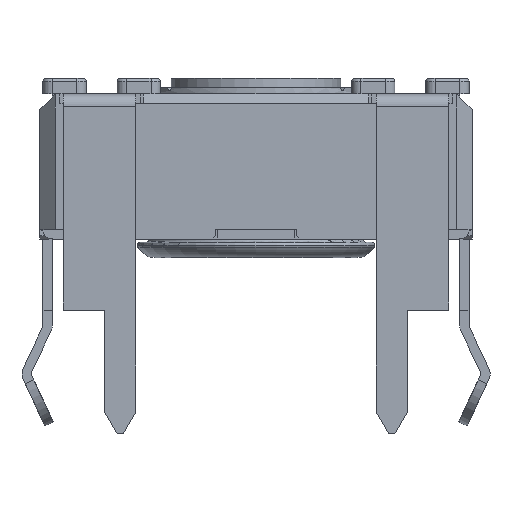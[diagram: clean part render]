
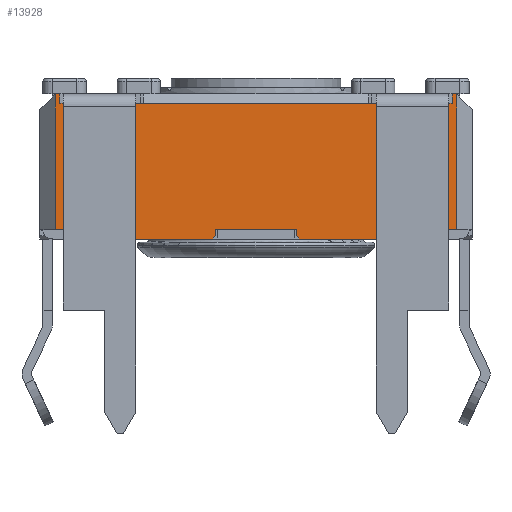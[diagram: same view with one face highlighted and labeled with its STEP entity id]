
A CAD part, front view. The second image highlights one B-rep face of the part: STEP entity #13928.
In plain terms, the highlighted planar face has unit normal (0, -1, 0).
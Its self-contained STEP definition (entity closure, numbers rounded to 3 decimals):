
#443=PLANE('',#14892);
#1091=FACE_OUTER_BOUND('',#1827,.T.);
#1827=EDGE_LOOP('',(#11359,#11360,#11361,#11362,#11363,#11364,#11365,#11366,
#11367,#11368,#11369,#11370,#11371,#11372,#11373,#11374,#11375,#11376,#11377,
#11378,#11379,#11380,#11381,#11382,#11383));
#2490=LINE('',#20045,#4082);
#2493=LINE('',#20053,#4085);
#2519=LINE('',#20104,#4111);
#2520=LINE('',#20106,#4112);
#2523=LINE('',#20114,#4115);
#2549=LINE('',#20165,#4141);
#2741=LINE('',#20729,#4333);
#2754=LINE('',#20753,#4346);
#2903=LINE('',#21208,#4495);
#3067=LINE('',#21650,#4659);
#3072=LINE('',#21660,#4664);
#3077=LINE('',#21670,#4669);
#3092=LINE('',#21696,#4684);
#3177=LINE('',#21969,#4769);
#3185=LINE('',#21987,#4777);
#3191=LINE('',#21995,#4783);
#3192=LINE('',#21998,#4784);
#3193=LINE('',#22000,#4785);
#3194=LINE('',#22002,#4786);
#3195=LINE('',#22003,#4787);
#3196=LINE('',#22004,#4788);
#3197=LINE('',#22005,#4789);
#3198=LINE('',#22006,#4790);
#3199=LINE('',#22007,#4791);
#3200=LINE('',#22008,#4792);
#4082=VECTOR('',#16075,10.);
#4085=VECTOR('',#16086,10.);
#4111=VECTOR('',#16114,10.);
#4112=VECTOR('',#16117,10.);
#4115=VECTOR('',#16128,10.);
#4141=VECTOR('',#16156,10.);
#4333=VECTOR('',#16726,10.);
#4346=VECTOR('',#16753,10.);
#4495=VECTOR('',#17140,10.);
#4659=VECTOR('',#17436,10.);
#4664=VECTOR('',#17441,10.);
#4669=VECTOR('',#17446,10.);
#4684=VECTOR('',#17463,10.);
#4769=VECTOR('',#17682,10.);
#4777=VECTOR('',#17694,10.);
#4783=VECTOR('',#17704,10.);
#4784=VECTOR('',#17707,10.);
#4785=VECTOR('',#17708,10.);
#4786=VECTOR('',#17709,10.);
#4787=VECTOR('',#17710,10.);
#4788=VECTOR('',#17711,10.);
#4789=VECTOR('',#17712,10.);
#4790=VECTOR('',#17713,10.);
#4791=VECTOR('',#17714,10.);
#4792=VECTOR('',#17715,10.);
#5727=VERTEX_POINT('',#19302);
#5737=VERTEX_POINT('',#19324);
#5745=VERTEX_POINT('',#19345);
#5784=VERTEX_POINT('',#19442);
#6002=VERTEX_POINT('',#20052);
#6026=VERTEX_POINT('',#20102);
#6027=VERTEX_POINT('',#20113);
#6051=VERTEX_POINT('',#20163);
#6233=VERTEX_POINT('',#20726);
#6234=VERTEX_POINT('',#20728);
#6237=VERTEX_POINT('',#20750);
#6238=VERTEX_POINT('',#20752);
#6364=VERTEX_POINT('',#21204);
#6481=VERTEX_POINT('',#21649);
#6485=VERTEX_POINT('',#21657);
#6486=VERTEX_POINT('',#21659);
#6490=VERTEX_POINT('',#21667);
#6491=VERTEX_POINT('',#21669);
#6553=VERTEX_POINT('',#21967);
#6554=VERTEX_POINT('',#21968);
#6561=VERTEX_POINT('',#21985);
#6562=VERTEX_POINT('',#21986);
#6563=VERTEX_POINT('',#21997);
#6564=VERTEX_POINT('',#21999);
#6565=VERTEX_POINT('',#22001);
#7418=EDGE_CURVE('',#5784,#5745,#2490,.T.);
#7421=EDGE_CURVE('',#6002,#5784,#2493,.T.);
#7447=EDGE_CURVE('',#5745,#6026,#2519,.T.);
#7448=EDGE_CURVE('',#5727,#5737,#2520,.T.);
#7451=EDGE_CURVE('',#6027,#5727,#2523,.T.);
#7477=EDGE_CURVE('',#5737,#6051,#2549,.T.);
#7760=EDGE_CURVE('',#6234,#6233,#2741,.T.);
#7773=EDGE_CURVE('',#6238,#6237,#2754,.T.);
#7971=EDGE_CURVE('',#6238,#6364,#2903,.T.);
#8156=EDGE_CURVE('',#6481,#6364,#3067,.T.);
#8161=EDGE_CURVE('',#6486,#6485,#3072,.T.);
#8166=EDGE_CURVE('',#6491,#6490,#3077,.T.);
#8181=EDGE_CURVE('',#6491,#6233,#3092,.T.);
#8285=EDGE_CURVE('',#6553,#6554,#3177,.T.);
#8293=EDGE_CURVE('',#6561,#6562,#3185,.T.);
#8299=EDGE_CURVE('',#6486,#6553,#3191,.T.);
#8300=EDGE_CURVE('',#6485,#6563,#3192,.T.);
#8301=EDGE_CURVE('',#6564,#6563,#3193,.T.);
#8302=EDGE_CURVE('',#6564,#6565,#3194,.T.);
#8303=EDGE_CURVE('',#6565,#6481,#3195,.T.);
#8304=EDGE_CURVE('',#6237,#6027,#3196,.T.);
#8305=EDGE_CURVE('',#6002,#6051,#3197,.T.);
#8306=EDGE_CURVE('',#6026,#6234,#3198,.T.);
#8307=EDGE_CURVE('',#6490,#6562,#3199,.T.);
#8308=EDGE_CURVE('',#6561,#6554,#3200,.T.);
#11359=ORIENTED_EDGE('',*,*,#8285,.F.);
#11360=ORIENTED_EDGE('',*,*,#8299,.F.);
#11361=ORIENTED_EDGE('',*,*,#8161,.T.);
#11362=ORIENTED_EDGE('',*,*,#8300,.T.);
#11363=ORIENTED_EDGE('',*,*,#8301,.F.);
#11364=ORIENTED_EDGE('',*,*,#8302,.T.);
#11365=ORIENTED_EDGE('',*,*,#8303,.T.);
#11366=ORIENTED_EDGE('',*,*,#8156,.T.);
#11367=ORIENTED_EDGE('',*,*,#7971,.F.);
#11368=ORIENTED_EDGE('',*,*,#7773,.T.);
#11369=ORIENTED_EDGE('',*,*,#8304,.T.);
#11370=ORIENTED_EDGE('',*,*,#7451,.T.);
#11371=ORIENTED_EDGE('',*,*,#7448,.T.);
#11372=ORIENTED_EDGE('',*,*,#7477,.T.);
#11373=ORIENTED_EDGE('',*,*,#8305,.F.);
#11374=ORIENTED_EDGE('',*,*,#7421,.T.);
#11375=ORIENTED_EDGE('',*,*,#7418,.T.);
#11376=ORIENTED_EDGE('',*,*,#7447,.T.);
#11377=ORIENTED_EDGE('',*,*,#8306,.T.);
#11378=ORIENTED_EDGE('',*,*,#7760,.T.);
#11379=ORIENTED_EDGE('',*,*,#8181,.F.);
#11380=ORIENTED_EDGE('',*,*,#8166,.T.);
#11381=ORIENTED_EDGE('',*,*,#8307,.T.);
#11382=ORIENTED_EDGE('',*,*,#8293,.F.);
#11383=ORIENTED_EDGE('',*,*,#8308,.T.);
#13928=ADVANCED_FACE('',(#1091),#443,.T.);
#14892=AXIS2_PLACEMENT_3D('',#21996,#17705,#17706);
#16075=DIRECTION('',(-1.,0.,0.));
#16086=DIRECTION('',(-1.,0.,0.));
#16114=DIRECTION('',(-1.,0.,0.));
#16117=DIRECTION('',(-1.,0.,0.));
#16128=DIRECTION('',(-1.,0.,0.));
#16156=DIRECTION('',(-1.,0.,0.));
#16726=DIRECTION('',(-1.,0.,0.));
#16753=DIRECTION('',(-1.,0.,0.));
#17140=DIRECTION('',(0.,0.,-1.));
#17436=DIRECTION('',(1.,0.,0.));
#17441=DIRECTION('',(1.,0.,0.));
#17446=DIRECTION('',(1.,0.,0.));
#17463=DIRECTION('',(0.,0.,1.));
#17682=DIRECTION('',(-0.707,0.,-0.707));
#17694=DIRECTION('',(-0.707,0.,0.707));
#17704=DIRECTION('',(0.,0.,-1.));
#17705=DIRECTION('center_axis',(0.,-1.,0.));
#17706=DIRECTION('ref_axis',(0.,0.,-1.));
#17707=DIRECTION('',(0.,0.,-1.));
#17708=DIRECTION('',(-0.707,0.,0.707));
#17709=DIRECTION('',(1.,0.,0.));
#17710=DIRECTION('',(0.,0.,1.));
#17711=DIRECTION('',(0.,0.,-1.));
#17712=DIRECTION('',(1.,0.,0.));
#17713=DIRECTION('',(0.,0.,1.));
#17714=DIRECTION('',(0.,0.,-1.));
#17715=DIRECTION('',(1.,0.,0.));
#19302=CARTESIAN_POINT('',(-1.217,-9.898,4.1));
#19324=CARTESIAN_POINT('',(-3.567,-9.898,4.1));
#19345=CARTESIAN_POINT('',(-13.717,-9.898,4.1));
#19442=CARTESIAN_POINT('',(-11.367,-9.898,4.1));
#20045=CARTESIAN_POINT('',(-3.944,-9.898,4.1));
#20052=CARTESIAN_POINT('',(-11.117,-9.898,4.1));
#20053=CARTESIAN_POINT('',(-3.944,-9.898,4.1));
#20102=CARTESIAN_POINT('',(-13.817,-9.898,4.1));
#20104=CARTESIAN_POINT('',(-3.944,-9.898,4.1));
#20106=CARTESIAN_POINT('',(-1.862,-9.898,4.1));
#20113=CARTESIAN_POINT('',(-1.117,-9.898,4.1));
#20114=CARTESIAN_POINT('',(-1.862,-9.898,4.1));
#20163=CARTESIAN_POINT('',(-3.817,-9.898,4.1));
#20165=CARTESIAN_POINT('',(-1.862,-9.898,4.1));
#20726=CARTESIAN_POINT('',(-13.967,-9.898,4.4));
#20728=CARTESIAN_POINT('',(-13.817,-9.898,4.4));
#20729=CARTESIAN_POINT('',(-14.467,-9.898,4.4));
#20750=CARTESIAN_POINT('',(-1.117,-9.898,4.4));
#20752=CARTESIAN_POINT('',(-0.967,-9.898,4.4));
#20753=CARTESIAN_POINT('',(-14.467,-9.898,4.4));
#21204=CARTESIAN_POINT('',(-0.967,-9.898,0.));
#21208=CARTESIAN_POINT('',(-0.967,-9.898,0.));
#21649=CARTESIAN_POINT('',(-1.467,-9.898,0.));
#21650=CARTESIAN_POINT('',(-0.646,-9.898,0.));
#21657=CARTESIAN_POINT('',(-6.167,-9.898,0.));
#21659=CARTESIAN_POINT('',(-8.767,-9.898,0.));
#21660=CARTESIAN_POINT('',(-14.467,-9.898,0.));
#21667=CARTESIAN_POINT('',(-13.467,-9.898,0.));
#21669=CARTESIAN_POINT('',(-13.967,-9.898,0.));
#21670=CARTESIAN_POINT('',(-7.245,-9.898,0.));
#21696=CARTESIAN_POINT('',(-13.967,-9.898,0.));
#21967=CARTESIAN_POINT('',(-8.767,-9.898,-0.2));
#21968=CARTESIAN_POINT('',(-8.867,-9.898,-0.3));
#21969=CARTESIAN_POINT('',(-6.667,-9.898,1.9));
#21985=CARTESIAN_POINT('',(-13.367,-9.898,-0.3));
#21986=CARTESIAN_POINT('',(-13.467,-9.898,-0.2));
#21987=CARTESIAN_POINT('',(-10.242,-9.898,-3.425));
#21995=CARTESIAN_POINT('',(-8.767,-9.898,0.));
#21996=CARTESIAN_POINT('Origin',(-0.467,-9.898,0.));
#21997=CARTESIAN_POINT('',(-6.167,-9.898,-0.2));
#21998=CARTESIAN_POINT('',(-6.167,-9.898,0.));
#21999=CARTESIAN_POINT('',(-6.067,-9.898,-0.3));
#22000=CARTESIAN_POINT('',(-4.767,-9.898,-1.6));
#22001=CARTESIAN_POINT('',(-1.467,-9.898,-0.3));
#22002=CARTESIAN_POINT('',(-0.467,-9.898,-0.3));
#22003=CARTESIAN_POINT('',(-1.467,-9.898,-0.15));
#22004=CARTESIAN_POINT('',(-1.117,-9.898,2.2));
#22005=CARTESIAN_POINT('',(-3.967,-9.898,4.1));
#22006=CARTESIAN_POINT('',(-13.817,-9.898,2.2));
#22007=CARTESIAN_POINT('',(-13.467,-9.898,-0.15));
#22008=CARTESIAN_POINT('',(-0.467,-9.898,-0.3));
